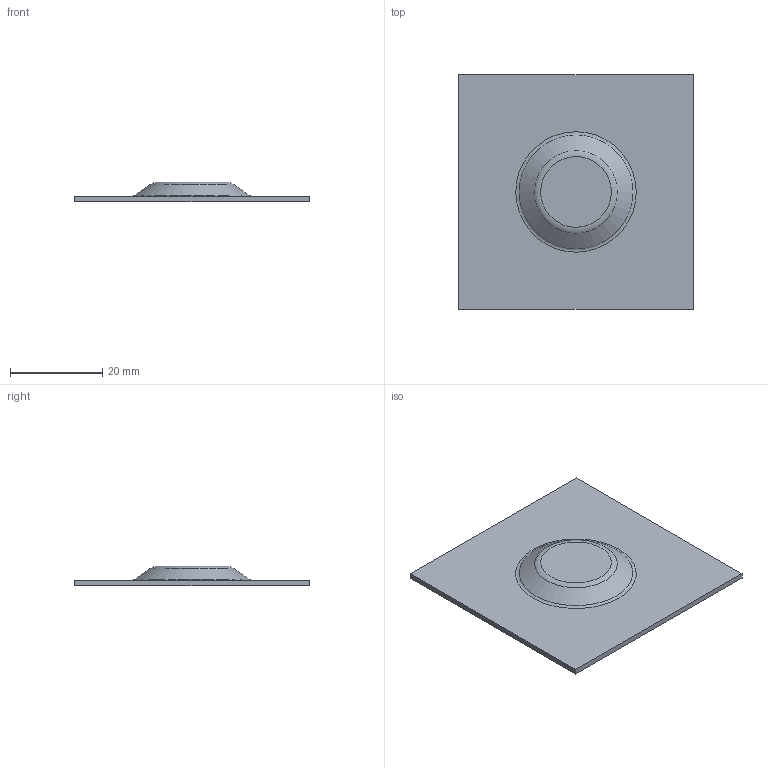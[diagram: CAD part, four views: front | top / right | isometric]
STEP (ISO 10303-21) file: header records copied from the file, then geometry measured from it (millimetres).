
FILE_DESCRIPTION((''),'2;1');
FILE_NAME('C:/Users/ericfrey/Desktop/TEK ROUND DIMPLE.STP', '2023-05-16T20:05:33',(''), (''), 'Kubotek Kosmos Version 5.0.12905.12905', 'KeyCreator Pro', '');
FILE_SCHEMA(('CONFIG_CONTROL_DESIGN'));
Length unit declared in the file: inch
Bounding box: 50.8 x 50.79 x 4.2 mm (x, y, z)
Volume: 3164.4 mm3; surface area: 5517.9 mm2
Topology: 1 solids, 1 shells, 14 faces, 28 edges, 18 vertices
Faces by surface type: plane 8, torus 4, cone 2
Entity records: 471 total; most frequent: DIRECTION 68, CARTESIAN_POINT 62, ORIENTED_EDGE 56, GENERAL_PROPERTY 35, EDGE_CURVE 28, AXIS2_PLACEMENT_3D 27, VERTEX_POINT 18, EDGE_LOOP 16
